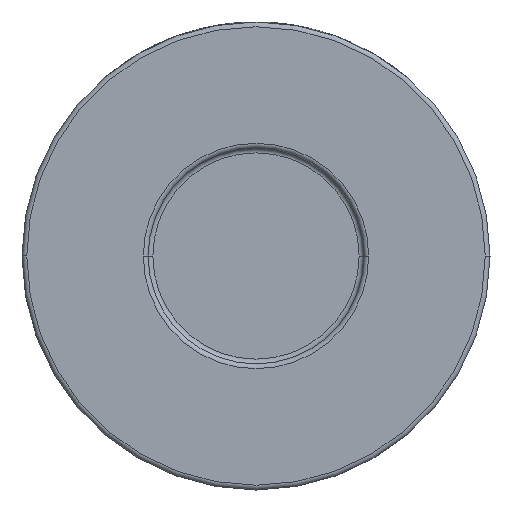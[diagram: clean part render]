
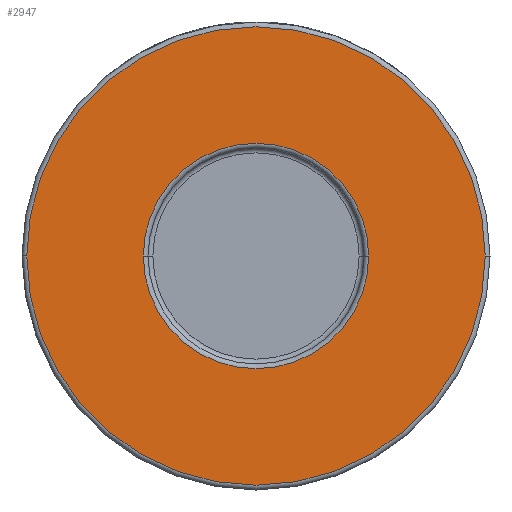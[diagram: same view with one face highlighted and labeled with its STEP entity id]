
A CAD part, front view. The second image highlights one B-rep face of the part: STEP entity #2947.
In plain terms, the highlighted planar face has unit normal (0, -1, 0).
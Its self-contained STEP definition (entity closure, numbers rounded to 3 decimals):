
#131 = PLANE ( 'NONE',  #1582 ) ;
#165 = CARTESIAN_POINT ( 'NONE',  ( -23.6, -30., 0. ) ) ;
#552 = DIRECTION ( 'NONE',  ( 1., 0., 0. ) ) ;
#636 = ORIENTED_EDGE ( 'NONE', *, *, #2927, .T. ) ;
#800 = AXIS2_PLACEMENT_3D ( 'NONE', #2781, #855, #552 ) ;
#855 = DIRECTION ( 'NONE',  ( 0., -1., 0. ) ) ;
#865 = CARTESIAN_POINT ( 'NONE',  ( 0., -30., 0. ) ) ;
#997 = ORIENTED_EDGE ( 'NONE', *, *, #1289, .T. ) ;
#1197 = ORIENTED_EDGE ( 'NONE', *, *, #3982, .T. ) ;
#1208 = AXIS2_PLACEMENT_3D ( 'NONE', #865, #1617, #1958 ) ;
#1223 = ORIENTED_EDGE ( 'NONE', *, *, #3939, .T. ) ;
#1226 = EDGE_LOOP ( 'NONE', ( #997, #1197 ) ) ;
#1289 = EDGE_CURVE ( 'NONE', #1410, #2494, #1652, .T. ) ;
#1410 = VERTEX_POINT ( 'NONE', #4626 ) ;
#1489 = CARTESIAN_POINT ( 'NONE',  ( 0., -30., 0. ) ) ;
#1563 = DIRECTION ( 'NONE',  ( 0., 1., 0. ) ) ;
#1582 = AXIS2_PLACEMENT_3D ( 'NONE', #4515, #1583, #3475 ) ;
#1583 = DIRECTION ( 'NONE',  ( 0., -1., 0. ) ) ;
#1617 = DIRECTION ( 'NONE',  ( 0., -1., 0. ) ) ;
#1652 = CIRCLE ( 'NONE', #800, 48. ) ;
#1951 = FACE_OUTER_BOUND ( 'NONE', #1226, .T. ) ;
#1958 = DIRECTION ( 'NONE',  ( 1., 0., 0. ) ) ;
#2023 = DIRECTION ( 'NONE',  ( 0., 1., 0. ) ) ;
#2128 = CIRCLE ( 'NONE', #2281, 23.6 ) ;
#2194 = CIRCLE ( 'NONE', #2430, 23.6 ) ;
#2281 = AXIS2_PLACEMENT_3D ( 'NONE', #1489, #1563, #2954 ) ;
#2381 = CARTESIAN_POINT ( 'NONE',  ( 0., -30., 0. ) ) ;
#2430 = AXIS2_PLACEMENT_3D ( 'NONE', #2381, #2023, #4537 ) ;
#2494 = VERTEX_POINT ( 'NONE', #3983 ) ;
#2727 = VERTEX_POINT ( 'NONE', #165 ) ;
#2781 = CARTESIAN_POINT ( 'NONE',  ( 0., -30., 0. ) ) ;
#2927 = EDGE_CURVE ( 'NONE', #3419, #2727, #2194, .T. ) ;
#2947 = ADVANCED_FACE ( 'NONE', ( #3810, #1951 ), #131, .T. ) ;
#2954 = DIRECTION ( 'NONE',  ( 1., 0., 0. ) ) ;
#3419 = VERTEX_POINT ( 'NONE', #3519 ) ;
#3475 = DIRECTION ( 'NONE',  ( 1., 0., 0. ) ) ;
#3519 = CARTESIAN_POINT ( 'NONE',  ( 23.6, -30., 0. ) ) ;
#3709 = EDGE_LOOP ( 'NONE', ( #636, #1223 ) ) ;
#3810 = FACE_BOUND ( 'NONE', #3709, .T. ) ;
#3878 = CIRCLE ( 'NONE', #1208, 48. ) ;
#3939 = EDGE_CURVE ( 'NONE', #2727, #3419, #2128, .T. ) ;
#3982 = EDGE_CURVE ( 'NONE', #2494, #1410, #3878, .T. ) ;
#3983 = CARTESIAN_POINT ( 'NONE',  ( -48., -30., 0. ) ) ;
#4515 = CARTESIAN_POINT ( 'NONE',  ( 49., -30., 0. ) ) ;
#4537 = DIRECTION ( 'NONE',  ( 1., 0., 0. ) ) ;
#4626 = CARTESIAN_POINT ( 'NONE',  ( 48., -30., 0. ) ) ;
